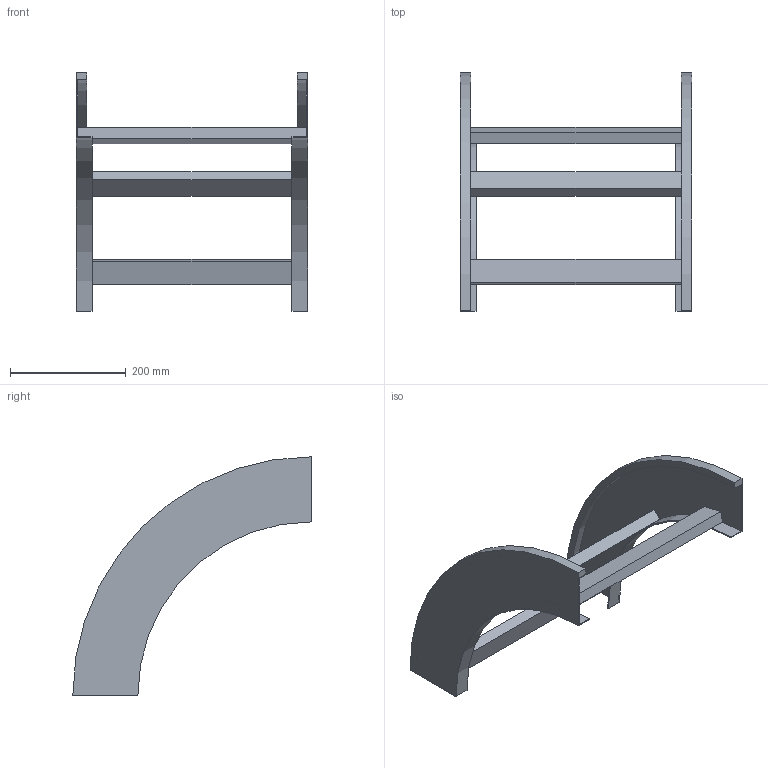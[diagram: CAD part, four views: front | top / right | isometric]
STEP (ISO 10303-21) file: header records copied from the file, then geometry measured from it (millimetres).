
FILE_DESCRIPTION (( 'STEP AP214' ), '1' );
FILE_NAME ('B2_33B3J400.step', '2025-02-21T15:04:10', ( '' ), ( '' ), 'SwSTEP 2.0', 'SolidWorks 2023', '' );
FILE_SCHEMA (( 'AUTOMOTIVE_DESIGN' ));
Length unit declared in the file: millimetre
Products named in the file (3): TRAVERSINO_400; B2_LONGH.DISCESA_90°_H112.5_R300; B2_33B3J400
Assembly tree (5 placements, depth 2):
  B2_33B3J400
    B2_LONGH.DISCESA_90°_H112.5_R300  x2
    TRAVERSINO_400  x3
Bounding box: 400 x 412.5 x 412.5 mm (x, y, z)
Volume: 1506574.3 mm3; surface area: 494917.9 mm2
Topology: 5 solids, 5 shells, 38 faces, 84 edges, 56 vertices
Faces by surface type: plane 30, cylinder 8
Entity records: 560 total; most frequent: DIRECTION 92, CARTESIAN_POINT 84, ORIENTED_EDGE 72, EDGE_CURVE 36, AXIS2_PLACEMENT_3D 32, LINE 28, VECTOR 28, VERTEX_POINT 24
